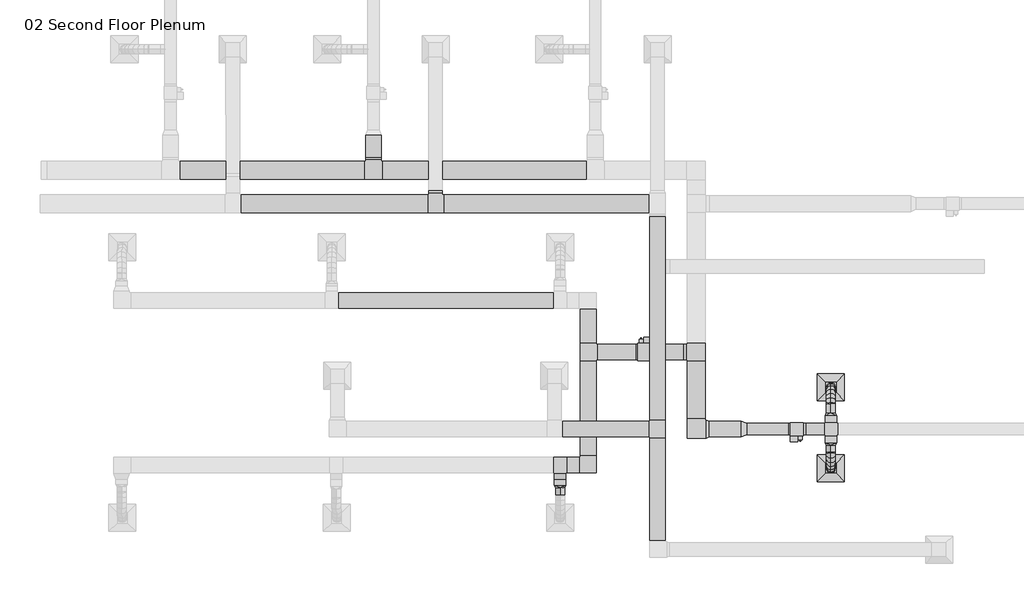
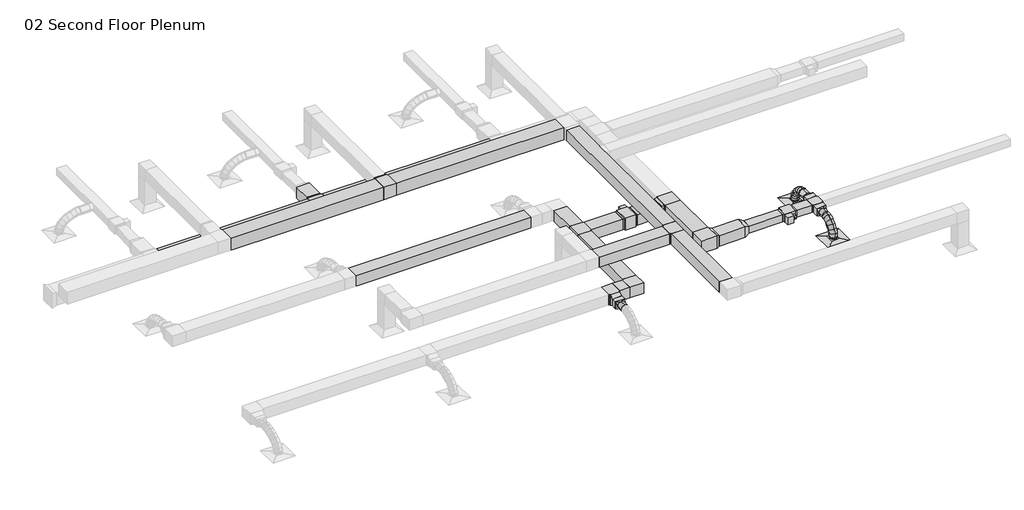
# One storey, part 8 of 12: 26 duct segments, 18 duct fittings, 2 air terminals, 2 proxies.
"""IFC4 building model written with IfcOpenShell, lengths in millimetres."""

from ifc_helpers import new_model, si_unit, point, frame, frame_2d, origin, place, context, project, spatial, polyline, circle_curve, ellipse_curve, trimmed, segment, composite_curve, outline, extrude, transform, mapped, element, save
from ifc_brep_helpers import plane_surface, cylinder_surface, advanced_brep
from components import supply_diffuser_rectangular_face_round_neck_d30_6390248a, bcn6785_vav_d30_vav1_8c327968, bcn6785_vav_d30_vav2_f6575c8f, rectangular_cross_standard_90e2e06b, rectangular_elbow_mitered_standard_f5573d14, rectangular_elbow_mitered_standard_452c98c7, rectangular_tee_standard_6c605370, rectangular_tee_standard_d9ff6fab, rectangular_tee_standard_47919d39, rectangular_tee_standard_b910b0bc, rectangular_transition_angle_45_degree_183635ce, rectangular_transition_angle_45_degree_4f949d70, rectangular_transition_angle_45_degree_97535d2c, rectangular_transition_angle_45_degree_6fcfed4c, rectangular_transition_angle_45_degree_21cd9d03, rectangular_transition_angle_45_degree_622b8b9e, rectangular_to_round_transition_angle_45_degree_e9430680, rectangular_to_round_transition_angle_45_degree_a46ebf92

model = new_model("IFC4")

# Units and contexts
model_context = context("Model", 3, world=origin())
ifc_project = project(units=[si_unit("LENGTHUNIT", "METRE", prefix="MILLI")], contexts=[model_context])

# Site, building, storey
site = spatial("IfcSite", under=ifc_project)
building = spatial("IfcBuilding", under=site)
storey = spatial("IfcBuildingStorey", under=building, Name="02 Second Floor Plenum", Elevation=3048.0)

# Air terminals
placement = place(None, origin())
supply_diffuser_rectangular_face_round_neck_d30_shape = supply_diffuser_rectangular_face_round_neck_d30_6390248a(model_context)
element("IfcAirTerminal", 1, ObjectType="Supply Diffuser - Rectangular Face Round Neck : D30_SupplyDiffuser_24x24 8 Neck", at=placement, inside=storey, context=model_context, shape_type="MappedRepresentation", body=[
    mapped(supply_diffuser_rectangular_face_round_neck_d30_shape, transform((14159.1207383, 2426.2921675, 3048.0), x_axis=(1.0, 0.0, 0.0), y_axis=(0.0, 1.0, 0.0), z_axis=(0.0, 0.0, 1.0))),
])
element("IfcAirTerminal", 2, ObjectType="Supply Diffuser - Rectangular Face Round Neck : D30_SupplyDiffuser_24x24 8 Neck", at=placement, inside=storey, context=model_context, shape_type="MappedRepresentation", body=[
    mapped(supply_diffuser_rectangular_face_round_neck_d30_shape, transform((14159.1207383, 597.4921675, 3048.0), x_axis=(1.0, 0.0, 0.0), y_axis=(0.0, 1.0, 0.0), z_axis=(0.0, 0.0, 1.0))),
])

# Proxies
bcn6785_vav_d30_vav1_shape = bcn6785_vav_d30_vav1_8c327968(model_context)
element("IfcBuildingElementProxy", 3, Name="BCN6785_VAV : D30_VAV1", ObjectType="BCN6785_VAV : D30_VAV1", at=placement, inside=storey, context=model_context, shape_type="MappedRepresentation", body=[
    mapped(bcn6785_vav_d30_vav1_shape, transform((13244.7207383, 1482.2580171, 3384.55), x_axis=(1.0, 0.0, 0.0), y_axis=(0.0, 1.0, 0.0), z_axis=(0.0, 0.0, 1.0))),
])
bcn6785_vav_d30_vav2_shape = bcn6785_vav_d30_vav2_f6575c8f(model_context)
element("IfcBuildingElementProxy", 4, Name="BCN6785_VAV : D30_VAV2", ObjectType="BCN6785_VAV : D30_VAV2", at=placement, inside=storey, context=model_context, shape_type="MappedRepresentation", body=[
    mapped(bcn6785_vav_d30_vav2_shape, transform((10103.5699331, 3217.7994471, 3333.75), x_axis=(-1.0, 0.0, 0.0), y_axis=(0.0, -1.0, 0.0), z_axis=(0.0, 0.0, 1.0))),
])

# Duct fittings
rectangular_cross_standard_shape = rectangular_cross_standard_90e2e06b(model_context)
element("IfcDuctFitting", 5, ObjectType="Rectangular Cross : Standard", at=placement, inside=storey, context=model_context, shape_type="MappedRepresentation", body=[
    mapped(rectangular_cross_standard_shape, transform((14160.0672275, 1482.2580171, 3505.2), x_axis=(1.0, 0.0, 0.0), y_axis=(0.0, 1.0, 0.0), z_axis=(0.0, 0.0, 1.0))),
])
rectangular_elbow_mitered_standard_shape = rectangular_elbow_mitered_standard_f5573d14(model_context)
element("IfcDuctFitting", 6, ObjectType="Rectangular Elbow - Mitered : Standard", at=placement, inside=storey, context=model_context, shape_type="MappedRepresentation", body=[
    mapped(rectangular_elbow_mitered_standard_shape, transform((11126.2817659, 1482.2580171, 3505.2), x_axis=(0.0, -1.0, 0.0), y_axis=(1.0, 0.0, 0.0), z_axis=(0.0, 0.0, 1.0))),
])
rectangular_elbow_mitered_standard_2_shape = rectangular_elbow_mitered_standard_452c98c7(model_context)
element("IfcDuctFitting", 7, ObjectType="Rectangular Elbow - Mitered : Standard", at=placement, inside=storey, context=model_context, shape_type="MappedRepresentation", body=[
    mapped(rectangular_elbow_mitered_standard_2_shape, transform((8690.7455608, 675.5206694, 3505.2), x_axis=(1.0, 0.0, 0.0), y_axis=(0.0, 1.0, 0.0), z_axis=(0.0, 0.0, 1.0))),
])
rectangular_tee_standard_shape = rectangular_tee_standard_6c605370(model_context)
element("IfcDuctFitting", 8, ObjectType="Rectangular Tee : Standard", at=placement, inside=storey, context=model_context, shape_type="MappedRepresentation", body=[
    mapped(rectangular_tee_standard_shape, transform((3851.251634, 7316.8809317, 3505.2), x_axis=(-1.0, 0.0, 0.0), y_axis=(0.0, -1.0, 0.0), z_axis=(0.0, 0.0, 1.0))),
])
element("IfcDuctFitting", 9, ObjectType="Rectangular Tee : Standard", at=placement, inside=storey, context=model_context, shape_type="MappedRepresentation", body=[
    mapped(rectangular_tee_standard_shape, transform((11126.2817659, 3217.7994471, 3505.2), x_axis=(0.0, -1.0, 0.0), y_axis=(1.0, 0.0, 0.0), z_axis=(0.0, 0.0, 1.0))),
])
rectangular_tee_standard_2_shape = rectangular_tee_standard_d9ff6fab(model_context)
element("IfcDuctFitting", 10, ObjectType="Rectangular Tee : Standard", at=placement, inside=storey, context=model_context, shape_type="MappedRepresentation", body=[
    mapped(rectangular_tee_standard_2_shape, transform((8690.7455608, 3217.7994471, 3505.2), x_axis=(0.0, 1.0, 0.0), y_axis=(-1.0, 0.0, 0.0), z_axis=(0.0, 0.0, 1.0))),
])
element("IfcDuctFitting", 11, ObjectType="Rectangular Tee : Standard", at=placement, inside=storey, context=model_context, shape_type="MappedRepresentation", body=[
    mapped(rectangular_tee_standard_2_shape, transform((10252.2832383, 1482.2580171, 4038.6), x_axis=(0.0, -1.0, 0.0), y_axis=(1.0, 0.0, 0.0), z_axis=(0.0, 0.0, 1.0))),
])
rectangular_tee_standard_3_shape = rectangular_tee_standard_47919d39(model_context)
element("IfcDuctFitting", 12, ObjectType="Rectangular Tee : Standard", at=placement, inside=storey, context=model_context, shape_type="MappedRepresentation", body=[
    mapped(rectangular_tee_standard_3_shape, transform((8055.87093, 675.5206694, 3505.2), x_axis=(-1.0, 0.0, 0.0), y_axis=(0.0, -1.0, 0.0), z_axis=(0.0, 0.0, 1.0))),
])
rectangular_tee_standard_4_shape = rectangular_tee_standard_b910b0bc(model_context)
element("IfcDuctFitting", 13, ObjectType="Rectangular Tee : Standard", at=placement, inside=storey, context=model_context, shape_type="MappedRepresentation", body=[
    mapped(rectangular_tee_standard_4_shape, transform((5253.2457383, 6562.5101985, 4038.6), x_axis=(-1.0, 0.0, 0.0), y_axis=(0.0, -1.0, 0.0), z_axis=(0.0, 0.0, 1.0))),
])
rectangular_transition_angle_45_degree_shape = rectangular_transition_angle_45_degree_183635ce(model_context)
element("IfcDuctFitting", 14, ObjectType="Rectangular Transition - Angle : 45 Degree", at=placement, inside=storey, context=model_context, shape_type="MappedRepresentation", body=[
    mapped(rectangular_transition_angle_45_degree_shape, transform((12142.2817659, 1482.2580171, 3505.2), x_axis=(1.0, 0.0, 0.0), y_axis=(0.0, 1.0, 0.0), z_axis=(0.0, 0.0, 1.0))),
])
rectangular_transition_angle_45_degree_2_shape = rectangular_transition_angle_45_degree_4f949d70(model_context)
element("IfcDuctFitting", 15, ObjectType="Rectangular Transition - Angle : 45 Degree", at=placement, inside=storey, context=model_context, shape_type="MappedRepresentation", body=[
    mapped(rectangular_transition_angle_45_degree_2_shape, transform((10897.6817659, 3217.7994471, 3505.2), x_axis=(-1.0, 0.0, 0.0), y_axis=(0.0, -1.0, 0.0), z_axis=(0.0, 0.0, 1.0))),
])
rectangular_transition_angle_45_degree_3_shape = rectangular_transition_angle_45_degree_97535d2c(model_context)
element("IfcDuctFitting", 16, ObjectType="Rectangular Transition - Angle : 45 Degree", at=placement, inside=storey, context=model_context, shape_type="MappedRepresentation", body=[
    mapped(rectangular_transition_angle_45_degree_3_shape, transform((3851.251634, 7606.8019562, 3505.2), x_axis=(0.0, -1.0, 0.0), y_axis=(1.0, 0.0, 0.0), z_axis=(0.0, 0.0, 1.0))),
])
rectangular_transition_angle_45_degree_4_shape = rectangular_transition_angle_45_degree_6fcfed4c(model_context)
element("IfcDuctFitting", 17, ObjectType="Rectangular Transition - Angle : 45 Degree", at=placement, inside=storey, context=model_context, shape_type="MappedRepresentation", body=[
    mapped(rectangular_transition_angle_45_degree_4_shape, transform((11354.8817659, 1482.2580171, 3505.2), x_axis=(1.0, 0.0, 0.0), y_axis=(0.0, 1.0, 0.0), z_axis=(0.0, 0.0, 1.0))),
])
rectangular_transition_angle_45_degree_5_shape = rectangular_transition_angle_45_degree_21cd9d03(model_context)
element("IfcDuctFitting", 18, ObjectType="Rectangular Transition - Angle : 45 Degree", at=placement, inside=storey, context=model_context, shape_type="MappedRepresentation", body=[
    mapped(rectangular_transition_angle_45_degree_5_shape, transform((8055.87093, 472.3206694, 3505.2), x_axis=(0.0, -1.0, 0.0), y_axis=(1.0, 0.0, 0.0), z_axis=(0.0, 0.0, 1.0))),
])
rectangular_transition_angle_45_degree_6_shape = rectangular_transition_angle_45_degree_622b8b9e(model_context)
element("IfcDuctFitting", 19, ObjectType="Rectangular Transition - Angle : 45 Degree", at=placement, inside=storey, context=model_context, shape_type="MappedRepresentation", body=[
    mapped(rectangular_transition_angle_45_degree_6_shape, transform((5253.2457383, 6791.1101985, 4038.6), x_axis=(0.0, 1.0, 0.0), y_axis=(-1.0, 0.0, 0.0), z_axis=(0.0, 0.0, 1.0))),
])
rectangular_to_round_transition_angle_45_degree_shape = rectangular_to_round_transition_angle_45_degree_e9430680(model_context)
element("IfcDuctFitting", 20, ObjectType="Rectangular to Round Transition - Angle : 45 Degree", at=placement, inside=storey, context=model_context, shape_type="MappedRepresentation", body=[
    mapped(rectangular_to_round_transition_angle_45_degree_shape, transform((14160.0672275, 1787.0580171, 3505.2), x_axis=(0.0, 1.0, 0.0), y_axis=(-1.0, 0.0, 0.0), z_axis=(0.0, 0.0, 1.0))),
])
element("IfcDuctFitting", 21, ObjectType="Rectangular to Round Transition - Angle : 45 Degree", at=placement, inside=storey, context=model_context, shape_type="MappedRepresentation", body=[
    mapped(rectangular_to_round_transition_angle_45_degree_shape, transform((14160.0672275, 1177.4580171, 3505.2), x_axis=(0.0, -1.0, 0.0), y_axis=(1.0, 0.0, 0.0), z_axis=(0.0, 0.0, 1.0))),
])
rectangular_to_round_transition_angle_45_degree_2_shape = rectangular_to_round_transition_angle_45_degree_a46ebf92(model_context)
element("IfcDuctFitting", 22, ObjectType="Rectangular to Round Transition - Angle : 45 Degree", at=placement, inside=storey, context=model_context, shape_type="MappedRepresentation", body=[
    mapped(rectangular_to_round_transition_angle_45_degree_2_shape, transform((8055.87093, 218.3206694, 3505.2), x_axis=(0.0, -1.0, 0.0), y_axis=(1.0, 0.0, 0.0), z_axis=(0.0, 0.0, 1.0))),
])

# Duct segments
element("IfcDuctSegment", 23, ObjectType="Flex - Round", at=placement, inside=storey, context=model_context, shape_type="AdvancedBrep", body=[
    advanced_brep(
    [(14058.4672275, 2051.5790416, 3505.2), (14160.0672275, 2051.5790416, 3403.6), (14261.6672275, 2051.5790416, 3505.2), (14160.0672275, 2051.5790416, 3606.8), (14058.4672275, 2070.229676, 3505.2), (14160.0672275, 2058.4829004, 3403.6), (14261.6672275, 2070.3262463, 3505.2), (14160.0672275, 2082.0730218, 3606.8), (14057.5209837, 2426.0688588, 3101.975), (14158.8974297, 2527.8919221, 3101.975), (14260.7204929, 2426.5154761, 3101.975), (14159.344047, 2324.6924129, 3101.975), (14058.3972058, 2142.9054666, 3488.0951454), (14160.020629, 2106.8476654, 3392.2169484), (14261.5970286, 2143.1859198, 3488.051867), (14159.9736054, 2179.2437209, 3583.930064), (14058.2220649, 2230.0684611, 3441.4922114), (14159.8903054, 2171.7062685, 3357.5393744), (14261.4216179, 2230.4832337, 3441.3771173), (14159.7533774, 2288.8454263, 3525.3299543), (14057.994297, 2307.5043796, 3372.4794057), (14159.7122367, 2232.2455616, 3303.5852591), (14261.1936689, 2307.9806967, 3372.3094615), (14159.4757291, 2383.2395147, 3441.2036081), (14057.7664519, 2369.6769813, 3288.1537085), (14159.5312221, 2281.6394389, 3236.5915508), (14260.965797, 2370.1606171, 3287.9738378), (14159.2010267, 2458.1981595, 3339.5359955), (14057.5911331, 2411.0460005, 3195.6208653), (14159.3951132, 2313.7563161, 3164.7535905), (14260.7905642, 2411.5093282, 3195.4864191), (14158.9865841, 2508.7990127, 3226.353694), (14057.5209837, 2426.0688588, 3118.0949275), (14159.344047, 2324.6924129, 3108.3175153), (14260.7204929, 2426.5154761, 3118.0467158), (14158.8974297, 2527.8919221, 3127.824128)],
    [
        (0, 1, circle_curve(frame((14160.0672275, 2051.5790416, 3505.2), z_axis=(0.0, -1.0, 0.0), x_axis=(-1.0, 0.0, 0.0)), 101.6)),
        (1, 2, circle_curve(frame((14160.0672275, 2051.5790416, 3505.2), z_axis=(0.0, -1.0, 0.0), x_axis=(-1.0, 0.0, 0.0)), 101.6)),
        (2, 3, circle_curve(frame((14160.0672275, 2051.5790416, 3505.2), z_axis=(0.0, -1.0, 0.0), x_axis=(-1.0, 0.0, 0.0)), 101.6)),
        (3, 0, circle_curve(frame((14160.0672275, 2051.5790416, 3505.2), z_axis=(0.0, -1.0, 0.0), x_axis=(-1.0, 0.0, 0.0)), 101.6)),
        (0, 4),
        (4, 5, ellipse_curve(frame((14160.0672275, 2070.2779611, 3505.2), z_axis=(0.00047207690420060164, -0.993328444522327, 0.11531859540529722), x_axis=(-0.004066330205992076, -0.11531956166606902, -0.9933201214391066)), 102.2823826, 101.6)),
        (5, 1),
        (5, 6, ellipse_curve(frame((14160.0672275, 2070.2779611, 3505.2), z_axis=(0.00047207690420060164, -0.993328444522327, 0.11531859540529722), x_axis=(-0.004066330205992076, -0.11531956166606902, -0.9933201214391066)), 102.2823826, 101.6)),
        (6, 2),
        (6, 7, ellipse_curve(frame((14160.0672275, 2070.2779611, 3505.2), z_axis=(0.00047207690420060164, -0.993328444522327, 0.11531859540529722), x_axis=(-0.004066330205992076, -0.11531956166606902, -0.9933201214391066)), 102.2823826, 101.6)),
        (7, 3),
        (7, 4, ellipse_curve(frame((14160.0672275, 2070.2779611, 3505.2), z_axis=(0.00047207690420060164, -0.993328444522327, 0.11531859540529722), x_axis=(-0.004066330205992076, -0.11531956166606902, -0.9933201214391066)), 102.2823826, 101.6)),
        (8, 9, circle_curve(frame((14159.1207383, 2426.2921675, 3101.975), z_axis=(0.0, 0.0, -1.0), x_axis=(-0.9999975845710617, -0.002197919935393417, 0.0)), 101.6)),
        (9, 10, circle_curve(frame((14159.1207383, 2426.2921675, 3101.975), z_axis=(0.0, 0.0, -1.0), x_axis=(-0.9999975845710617, -0.002197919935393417, 0.0)), 101.6)),
        (10, 11, circle_curve(frame((14159.1207383, 2426.2921675, 3101.975), z_axis=(0.0, 0.0, -1.0), x_axis=(-0.9999975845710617, -0.002197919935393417, 0.0)), 101.6)),
        (11, 8, circle_curve(frame((14159.1207383, 2426.2921675, 3101.975), z_axis=(0.0, 0.0, -1.0), x_axis=(-0.9999975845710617, -0.002197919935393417, 0.0)), 101.6)),
        (4, 12),
        (12, 13, ellipse_curve(frame((14159.9971172, 2143.0456932, 3488.0735062), z_axis=(0.0013664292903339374, -0.9355177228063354, 0.3532771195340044), x_axis=(-0.0032191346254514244, -0.3532797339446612, -0.9355121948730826)), 102.4635524, 101.6)),
        (13, 5),
        (13, 14, ellipse_curve(frame((14159.9971172, 2143.0456932, 3488.0735062), z_axis=(0.0013664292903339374, -0.9355177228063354, 0.3532771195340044), x_axis=(-0.0032191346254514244, -0.3532797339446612, -0.9355121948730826)), 102.4635524, 101.6)),
        (14, 6),
        (14, 15, ellipse_curve(frame((14159.9971172, 2143.0456932, 3488.0735062), z_axis=(0.0013664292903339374, -0.9355177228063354, 0.3532771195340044), x_axis=(-0.0032191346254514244, -0.3532797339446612, -0.9355121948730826)), 102.4635524, 101.6)),
        (15, 7),
        (15, 12, ellipse_curve(frame((14159.9971172, 2143.0456932, 3488.0735062), z_axis=(0.0013664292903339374, -0.9355177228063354, 0.3532771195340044), x_axis=(-0.0032191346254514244, -0.3532797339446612, -0.9355121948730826)), 102.4635524, 101.6)),
        (12, 16),
        (16, 17, ellipse_curve(frame((14159.8218414, 2230.2758474, 3441.4346644), z_axis=(0.0019979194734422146, -0.8199503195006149, 0.5724312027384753), x_axis=(-0.0017930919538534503, -0.5724343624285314, -0.8199485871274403)), 102.3172558, 101.6)),
        (17, 13),
        (17, 18, ellipse_curve(frame((14159.8218414, 2230.2758474, 3441.4346644), z_axis=(0.0019979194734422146, -0.8199503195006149, 0.5724312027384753), x_axis=(-0.0017930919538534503, -0.5724343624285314, -0.8199485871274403)), 102.3172558, 101.6)),
        (18, 14),
        (18, 19, ellipse_curve(frame((14159.8218414, 2230.2758474, 3441.4346644), z_axis=(0.0019979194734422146, -0.8199503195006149, 0.5724312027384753), x_axis=(-0.0017930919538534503, -0.5724343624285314, -0.8199485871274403)), 102.3172558, 101.6)),
        (19, 15),
        (19, 16, ellipse_curve(frame((14159.8218414, 2230.2758474, 3441.4346644), z_axis=(0.0019979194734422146, -0.8199503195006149, 0.5724312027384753), x_axis=(-0.0017930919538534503, -0.5724343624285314, -0.8199485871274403)), 102.3172558, 101.6)),
        (16, 20),
        (20, 21, ellipse_curve(frame((14159.5939829, 2307.7425381, 3372.3944336), z_axis=(0.0021971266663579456, -0.6736097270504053, 0.7390839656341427), x_axis=(0.00010183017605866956, -0.7390855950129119, -0.6736115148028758)), 102.1494497, 101.6)),
        (21, 17),
        (21, 22, ellipse_curve(frame((14159.5939829, 2307.7425381, 3372.3944336), z_axis=(0.0021971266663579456, -0.6736097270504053, 0.7390839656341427), x_axis=(0.00010183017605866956, -0.7390855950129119, -0.6736115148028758)), 102.1494497, 101.6)),
        (22, 18),
        (22, 23, ellipse_curve(frame((14159.5939829, 2307.7425381, 3372.3944336), z_axis=(0.0021971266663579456, -0.6736097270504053, 0.7390839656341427), x_axis=(0.00010183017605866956, -0.7390855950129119, -0.6736115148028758)), 102.1494497, 101.6)),
        (23, 19),
        (23, 20, ellipse_curve(frame((14159.5939829, 2307.7425381, 3372.3944336), z_axis=(0.0021971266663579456, -0.6736097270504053, 0.7390839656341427), x_axis=(0.00010183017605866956, -0.7390855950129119, -0.6736115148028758)), 102.1494497, 101.6)),
        (20, 24),
        (24, 25, ellipse_curve(frame((14159.3661244, 2369.9187992, 3288.0637732), z_axis=(0.001963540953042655, -0.5036915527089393, 0.8638813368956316), x_axis=(0.002075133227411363, -0.8638790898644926, -0.5036949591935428)), 102.1893459, 101.6)),
        (25, 21),
        (25, 26, ellipse_curve(frame((14159.3661244, 2369.9187992, 3288.0637732), z_axis=(0.001963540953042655, -0.5036915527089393, 0.8638813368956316), x_axis=(0.002075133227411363, -0.8638790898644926, -0.5036949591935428)), 102.1893459, 101.6)),
        (26, 22),
        (26, 27, ellipse_curve(frame((14159.3661244, 2369.9187992, 3288.0637732), z_axis=(0.001963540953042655, -0.5036915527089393, 0.8638813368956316), x_axis=(0.002075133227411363, -0.8638790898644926, -0.5036949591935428)), 102.1893459, 101.6)),
        (27, 23),
        (27, 24, ellipse_curve(frame((14159.3661244, 2369.9187992, 3288.0637732), z_axis=(0.001963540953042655, -0.5036915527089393, 0.8638813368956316), x_axis=(0.002075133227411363, -0.8638790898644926, -0.5036949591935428)), 102.1893459, 101.6)),
        (24, 28),
        (28, 29, ellipse_curve(frame((14159.1908486, 2411.2776644, 3195.5536422), z_axis=(0.0013176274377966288, -0.30116270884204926, 0.9535718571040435), x_axis=(0.003681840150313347, -0.9535647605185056, -0.3011655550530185)), 102.2697349, 101.6)),
        (29, 25),
        (29, 30, ellipse_curve(frame((14159.1908486, 2411.2776644, 3195.5536422), z_axis=(0.0013176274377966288, -0.30116270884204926, 0.9535718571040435), x_axis=(0.003681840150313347, -0.9535647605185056, -0.3011655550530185)), 102.2697349, 101.6)),
        (30, 26),
        (30, 31, ellipse_curve(frame((14159.1908486, 2411.2776644, 3195.5536422), z_axis=(0.0013176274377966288, -0.30116270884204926, 0.9535718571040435), x_axis=(0.003681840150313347, -0.9535647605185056, -0.3011655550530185)), 102.2697349, 101.6)),
        (31, 27),
        (31, 28, ellipse_curve(frame((14159.1908486, 2411.2776644, 3195.5536422), z_axis=(0.0013176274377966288, -0.30116270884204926, 0.9535718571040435), x_axis=(0.003681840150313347, -0.9535647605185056, -0.3011655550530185)), 102.2697349, 101.6)),
        (28, 32),
        (32, 33, ellipse_curve(frame((14159.1207383, 2426.2921675, 3118.0708216), z_axis=(0.00044620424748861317, -0.0955570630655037, 0.9954238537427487), x_axis=(0.004648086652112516, -0.9954130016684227, -0.09555810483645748)), 102.0670739, 101.6)),
        (33, 29),
        (33, 34, ellipse_curve(frame((14159.1207383, 2426.2921675, 3118.0708216), z_axis=(0.00044620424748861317, -0.0955570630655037, 0.9954238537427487), x_axis=(0.004648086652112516, -0.9954130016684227, -0.09555810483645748)), 102.0670739, 101.6)),
        (34, 30),
        (34, 35, ellipse_curve(frame((14159.1207383, 2426.2921675, 3118.0708216), z_axis=(0.00044620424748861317, -0.0955570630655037, 0.9954238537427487), x_axis=(0.004648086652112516, -0.9954130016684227, -0.09555810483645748)), 102.0670739, 101.6)),
        (35, 31),
        (35, 32, ellipse_curve(frame((14159.1207383, 2426.2921675, 3118.0708216), z_axis=(0.00044620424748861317, -0.0955570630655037, 0.9954238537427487), x_axis=(0.004648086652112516, -0.9954130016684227, -0.09555810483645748)), 102.0670739, 101.6)),
        (32, 8),
        (11, 33),
        (10, 34),
        (9, 35),
    ],
    [
        plane_surface(frame((14058.4672275, 2051.5790416, 3505.2), z_axis=(0.0, -1.0, 0.0), x_axis=(0.0, 0.0, 1.0))),
        cylinder_surface(frame((14160.0672275, 2051.5790416, 3505.2), z_axis=(0.0, -1.0, 0.0), x_axis=(-1.0, 0.0, 0.0)), 101.6),
        plane_surface(frame((14159.1207383, 2324.6921675, 3101.975), z_axis=(0.0, 0.0, -1.0), x_axis=(-1.0, 0.0, 0.0))),
        cylinder_surface(frame((14160.0672275, 2070.2779611, 3505.2), z_axis=(0.0009378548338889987, -0.9734027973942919, 0.22909848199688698), x_axis=(-0.9999995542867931, -0.0009378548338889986, 0.00010887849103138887)), 101.6),
        cylinder_surface(frame((14159.9971172, 2143.0456932, 3488.0735062), z_axis=(0.0017719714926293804, -0.8818637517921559, 0.47150098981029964), x_axis=(-0.999998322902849, -0.0017809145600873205, 0.0004272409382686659)), 101.6),
        cylinder_surface(frame((14159.8218414, 2230.2758474, 3441.4346644), z_axis=(0.0021958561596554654, -0.746540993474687, 0.6653357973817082), x_axis=(-0.999997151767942, -0.0022615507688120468, 0.0007627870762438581)), 101.6),
        cylinder_surface(frame((14159.5939829, 2307.7425381, 3372.3944336), z_axis=(0.0021747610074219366, -0.5934319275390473, 0.8048812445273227), x_axis=(-0.9999966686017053, -0.002409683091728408, 0.0009253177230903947)), 101.6),
        cylinder_surface(frame((14159.3661244, 2369.9187992, 3288.0637732), z_axis=(0.0017296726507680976, -0.408141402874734, 0.9129170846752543), x_axis=(-0.9999968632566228, -0.0023597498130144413, 0.0008396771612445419)), 101.6),
        cylinder_surface(frame((14159.1908486, 2411.2776644, 3195.5536422), z_axis=(0.0008883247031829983, -0.1902395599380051, 0.9817372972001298), x_axis=(-0.9999973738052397, -0.0022430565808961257, 0.00047019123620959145)), 101.6),
        cylinder_surface(frame((14159.1207383, 2426.2921675, 3118.0708216), z_axis=(0.0, 0.0, 1.0000000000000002), x_axis=(-0.9999975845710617, -0.002197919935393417, 0.0)), 101.6),
    ],
    [
        (0, [[1, 2, 3, 4]]),
        (1, [[-1, 5, 6, 7]]),
        (1, [[-2, -7, 8, 9]]),
        (1, [[-3, -9, 10, 11]]),
        (1, [[-4, -11, 12, -5]]),
        (2, [[13, 14, 15, 16]]),
        (3, [[-6, 17, 18, 19]]),
        (3, [[-8, -19, 20, 21]]),
        (3, [[-10, -21, 22, 23]]),
        (3, [[-12, -23, 24, -17]]),
        (4, [[-18, 25, 26, 27]]),
        (4, [[-20, -27, 28, 29]]),
        (4, [[-22, -29, 30, 31]]),
        (4, [[-24, -31, 32, -25]]),
        (5, [[-26, 33, 34, 35]]),
        (5, [[-28, -35, 36, 37]]),
        (5, [[-30, -37, 38, 39]]),
        (5, [[-32, -39, 40, -33]]),
        (6, [[-34, 41, 42, 43]]),
        (6, [[-36, -43, 44, 45]]),
        (6, [[-38, -45, 46, 47]]),
        (6, [[-40, -47, 48, -41]]),
        (7, [[-42, 49, 50, 51]]),
        (7, [[-44, -51, 52, 53]]),
        (7, [[-46, -53, 54, 55]]),
        (7, [[-48, -55, 56, -49]]),
        (8, [[-50, 57, 58, 59]]),
        (8, [[-52, -59, 60, 61]]),
        (8, [[-54, -61, 62, 63]]),
        (8, [[-56, -63, 64, -57]]),
        (9, [[-58, 65, -16, 66]]),
        (9, [[-60, -66, -15, 67]]),
        (9, [[-62, -67, -14, 68]]),
        (9, [[-64, -68, -13, -65]]),
    ],
),
])
element("IfcDuctSegment", 24, ObjectType="Flex - Round", at=placement, inside=storey, context=model_context, shape_type="AdvancedBrep", body=[
    advanced_brep(
    [(14261.6672275, 963.7369926, 3505.2), (14160.0672275, 963.7369926, 3403.6), (14058.4672275, 963.7369926, 3505.2), (14160.0672275, 963.7369926, 3606.8), (14261.6672275, 944.5887257, 3505.2), (14160.0672275, 956.7967884, 3403.6), (14058.4672275, 944.6875081, 3505.2), (14160.0672275, 932.4794454, 3606.8), (14260.7204876, 597.2664263, 3101.975), (14158.8949972, 495.8924183, 3101.975), (14057.5209891, 597.7179086, 3101.975), (14159.3464795, 699.0919167, 3101.975), (14261.5970251, 873.4180379, 3487.9182251), (14160.0216972, 910.6384558, 3392.3917634), (14058.3972092, 873.7034407, 3487.9635406), (14159.9725372, 836.4830228, 3583.4900024), (14261.4216108, 787.8742075, 3440.9505223), (14159.8927099, 847.7355504, 3357.855024), (14058.222072, 788.2947156, 3441.0700171), (14159.750973, 728.4333727, 3524.1655153), (14261.1936598, 712.2828673, 3371.590359), (14159.7155964, 789.0025859, 3303.9635598), (14057.994306, 712.7647576, 3371.7661761), (14159.4723694, 636.045039, 3439.3929754), (14260.9657885, 651.8500993, 3287.1223221), (14159.5345832, 740.9968376, 3236.8650063), (14057.7664604, 652.3387908, 3287.3076455), (14159.1976657, 563.1920525, 3337.5649613), (14260.7905576, 611.7779382, 3194.8215232), (14159.3979586, 709.7532516, 3164.8996349), (14057.5911397, 612.2460865, 3194.9595279), (14158.9837386, 514.2707732, 3224.8814162), (14260.7204876, 597.2664263, 3117.6370812), (14159.3464795, 699.0919167, 3108.1936769), (14057.5209891, 597.7179086, 3117.6864419), (14158.8949972, 495.8924183, 3127.1298462)],
    [
        (0, 1, circle_curve(frame((14160.0672275, 963.7369926, 3505.2), z_axis=(0.0, 1.0, 0.0), x_axis=(1.0, 0.0, 0.0)), 101.6)),
        (1, 2, circle_curve(frame((14160.0672275, 963.7369926, 3505.2), z_axis=(0.0, 1.0, 0.0), x_axis=(1.0, 0.0, 0.0)), 101.6)),
        (2, 3, circle_curve(frame((14160.0672275, 963.7369926, 3505.2), z_axis=(0.0, 1.0, 0.0), x_axis=(1.0, 0.0, 0.0)), 101.6)),
        (3, 0, circle_curve(frame((14160.0672275, 963.7369926, 3505.2), z_axis=(0.0, 1.0, 0.0), x_axis=(1.0, 0.0, 0.0)), 101.6)),
        (0, 4),
        (4, 5, ellipse_curve(frame((14160.0672275, 944.6381169, 3505.2), z_axis=(0.0004826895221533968, 0.9929152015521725, 0.11882411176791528), x_axis=(-0.0040334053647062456, 0.11882509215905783, -0.9929070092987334)), 102.3249517, 101.6)),
        (5, 1),
        (5, 6, ellipse_curve(frame((14160.0672275, 944.6381169, 3505.2), z_axis=(0.0004826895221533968, 0.9929152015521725, 0.11882411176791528), x_axis=(-0.0040334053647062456, 0.11882509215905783, -0.9929070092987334)), 102.3249517, 101.6)),
        (6, 2),
        (6, 7, ellipse_curve(frame((14160.0672275, 944.6381169, 3505.2), z_axis=(0.0004826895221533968, 0.9929152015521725, 0.11882411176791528), x_axis=(-0.0040334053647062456, 0.11882509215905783, -0.9929070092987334)), 102.3249517, 101.6)),
        (7, 3),
        (7, 4, ellipse_curve(frame((14160.0672275, 944.6381169, 3505.2), z_axis=(0.0004826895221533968, 0.9929152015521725, 0.11882411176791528), x_axis=(-0.0040334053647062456, 0.11882509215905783, -0.9929070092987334)), 102.3249517, 101.6)),
        (8, 9, circle_curve(frame((14159.1207383, 597.4921675, 3101.975), z_axis=(0.0, 0.0, -1.0), x_axis=(0.9999975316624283, -0.0022218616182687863, 0.0)), 101.6)),
        (9, 10, circle_curve(frame((14159.1207383, 597.4921675, 3101.975), z_axis=(0.0, 0.0, -1.0), x_axis=(0.9999975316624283, -0.0022218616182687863, 0.0)), 101.6)),
        (10, 11, circle_curve(frame((14159.1207383, 597.4921675, 3101.975), z_axis=(0.0, 0.0, -1.0), x_axis=(0.9999975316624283, -0.0022218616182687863, 0.0)), 101.6)),
        (11, 8, circle_curve(frame((14159.1207383, 597.4921675, 3101.975), z_axis=(0.0, 0.0, -1.0), x_axis=(0.9999975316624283, -0.0022218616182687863, 0.0)), 101.6)),
        (4, 12),
        (12, 13, ellipse_curve(frame((14159.9971172, 873.5607393, 3487.9408829), z_axis=(0.0013900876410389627, 0.9322679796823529, 0.36176578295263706), x_axis=(-0.0031881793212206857, 0.36176842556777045, -0.9322625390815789)), 102.4909463, 101.6)),
        (13, 5),
        (13, 14, ellipse_curve(frame((14159.9971172, 873.5607393, 3487.9408829), z_axis=(0.0013900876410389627, 0.9322679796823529, 0.36176578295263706), x_axis=(-0.0031881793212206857, 0.36176842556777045, -0.9322625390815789)), 102.4909463, 101.6)),
        (14, 6),
        (14, 15, ellipse_curve(frame((14159.9971172, 873.5607393, 3487.9408829), z_axis=(0.0013900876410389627, 0.9322679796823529, 0.36176578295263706), x_axis=(-0.0031881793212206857, 0.36176842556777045, -0.9322625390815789)), 102.4909463, 101.6)),
        (15, 7),
        (15, 12, ellipse_curve(frame((14159.9971172, 873.5607393, 3487.9408829), z_axis=(0.0013900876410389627, 0.9322679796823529, 0.36176578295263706), x_axis=(-0.0031881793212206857, 0.36176842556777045, -0.9322625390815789)), 102.4909463, 101.6)),
        (12, 16),
        (16, 17, ellipse_curve(frame((14159.8218414, 788.0844616, 3441.0102697), z_axis=(0.0020242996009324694, 0.8125531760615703, 0.5828835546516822), x_axis=(-0.0017704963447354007, 0.5828867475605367, -0.8125514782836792)), 102.3379364, 101.6)),
        (17, 13),
        (17, 18, ellipse_curve(frame((14159.8218414, 788.0844616, 3441.0102697), z_axis=(0.0020242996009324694, 0.8125531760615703, 0.5828835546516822), x_axis=(-0.0017704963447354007, 0.5828867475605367, -0.8125514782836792)), 102.3379364, 101.6)),
        (18, 14),
        (18, 19, ellipse_curve(frame((14159.8218414, 788.0844616, 3441.0102697), z_axis=(0.0020242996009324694, 0.8125531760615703, 0.5828835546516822), x_axis=(-0.0017704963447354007, 0.5828867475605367, -0.8125514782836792)), 102.3379364, 101.6)),
        (19, 15),
        (19, 16, ellipse_curve(frame((14159.8218414, 788.0844616, 3441.0102697), z_axis=(0.0020242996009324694, 0.8125531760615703, 0.5828835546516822), x_axis=(-0.0017704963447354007, 0.5828867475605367, -0.8125514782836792)), 102.3379364, 101.6)),
        (16, 20),
        (20, 21, ellipse_curve(frame((14159.5939829, 712.5238125, 3371.6782676), z_axis=(0.002219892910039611, 0.6629019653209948, 0.7487029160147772), x_axis=(0.00013493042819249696, 0.7487045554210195, -0.6629038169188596)), 102.1484183, 101.6)),
        (21, 17),
        (21, 22, ellipse_curve(frame((14159.5939829, 712.5238125, 3371.6782676), z_axis=(0.002219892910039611, 0.6629019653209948, 0.7487029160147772), x_axis=(0.00013493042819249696, 0.7487045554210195, -0.6629038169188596)), 102.1484183, 101.6)),
        (22, 18),
        (22, 23, ellipse_curve(frame((14159.5939829, 712.5238125, 3371.6782676), z_axis=(0.002219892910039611, 0.6629019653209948, 0.7487029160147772), x_axis=(0.00013493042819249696, 0.7487045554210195, -0.6629038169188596)), 102.1484183, 101.6)),
        (23, 19),
        (23, 20, ellipse_curve(frame((14159.5939829, 712.5238125, 3371.6782676), z_axis=(0.002219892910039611, 0.6629019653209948, 0.7487029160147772), x_axis=(0.00013493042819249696, 0.7487045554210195, -0.6629038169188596)), 102.1484183, 101.6)),
        (20, 24),
        (24, 25, ellipse_curve(frame((14159.3661244, 652.0944451, 3287.2149838), z_axis=(0.001978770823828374, 0.492800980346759, 0.8701398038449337), x_axis=(0.0021445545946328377, 0.8701374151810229, -0.4928045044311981)), 102.1703677, 101.6)),
        (25, 21),
        (25, 26, ellipse_curve(frame((14159.3661244, 652.0944451, 3287.2149838), z_axis=(0.001978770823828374, 0.492800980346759, 0.8701398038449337), x_axis=(0.0021445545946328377, 0.8701374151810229, -0.4928045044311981)), 102.1703677, 101.6)),
        (26, 22),
        (26, 27, ellipse_curve(frame((14159.3661244, 652.0944451, 3287.2149838), z_axis=(0.001978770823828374, 0.492800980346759, 0.8701398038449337), x_axis=(0.0021445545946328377, 0.8701374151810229, -0.4928045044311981)), 102.1703677, 101.6)),
        (27, 23),
        (27, 24, ellipse_curve(frame((14159.3661244, 652.0944451, 3287.2149838), z_axis=(0.001978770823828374, 0.492800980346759, 0.8701398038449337), x_axis=(0.0021445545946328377, 0.8701374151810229, -0.4928045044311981)), 102.1703677, 101.6)),
        (24, 28),
        (28, 29, ellipse_curve(frame((14159.1908486, 612.0120124, 3194.8905256), z_axis=(0.0013250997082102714, 0.2933383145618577, 0.9560077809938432), x_axis=(0.00380337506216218, 0.9560002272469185, -0.2933412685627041)), 102.2391641, 101.6)),
        (29, 25),
        (29, 30, ellipse_curve(frame((14159.1908486, 612.0120124, 3194.8905256), z_axis=(0.0013250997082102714, 0.2933383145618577, 0.9560077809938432), x_axis=(0.00380337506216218, 0.9560002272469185, -0.2933412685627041)), 102.2391641, 101.6)),
        (30, 26),
        (30, 31, ellipse_curve(frame((14159.1908486, 612.0120124, 3194.8905256), z_axis=(0.0013250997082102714, 0.2933383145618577, 0.9560077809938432), x_axis=(0.00380337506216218, 0.9560002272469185, -0.2933412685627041)), 102.2391641, 101.6)),
        (31, 27),
        (31, 28, ellipse_curve(frame((14159.1908486, 612.0120124, 3194.8905256), z_axis=(0.0013250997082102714, 0.2933383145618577, 0.9560077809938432), x_axis=(0.00380337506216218, 0.9560002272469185, -0.2933412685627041)), 102.2391641, 101.6)),
        (28, 32),
        (32, 33, ellipse_curve(frame((14159.1207383, 597.4921675, 3117.6617615), z_axis=(0.000448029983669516, 0.09278701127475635, 0.9956858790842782), x_axis=(0.004807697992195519, 0.9956742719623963, -0.09278809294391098)), 102.0402138, 101.6)),
        (33, 29),
        (33, 34, ellipse_curve(frame((14159.1207383, 597.4921675, 3117.6617615), z_axis=(0.000448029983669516, 0.09278701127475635, 0.9956858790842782), x_axis=(0.004807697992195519, 0.9956742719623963, -0.09278809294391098)), 102.0402138, 101.6)),
        (34, 30),
        (34, 35, ellipse_curve(frame((14159.1207383, 597.4921675, 3117.6617615), z_axis=(0.000448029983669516, 0.09278701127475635, 0.9956858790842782), x_axis=(0.004807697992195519, 0.9956742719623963, -0.09278809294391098)), 102.0402138, 101.6)),
        (35, 31),
        (35, 32, ellipse_curve(frame((14159.1207383, 597.4921675, 3117.6617615), z_axis=(0.000448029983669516, 0.09278701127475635, 0.9956858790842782), x_axis=(0.004807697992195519, 0.9956742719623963, -0.09278809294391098)), 102.0402138, 101.6)),
        (32, 8),
        (11, 33),
        (10, 34),
        (9, 35),
    ],
    [
        plane_surface(frame((14058.4672275, 963.7369926, 3505.2), z_axis=(0.0, 1.0, 0.0), x_axis=(0.0, 0.0, -1.0))),
        cylinder_surface(frame((14160.0672275, 963.7369926, 3505.2), z_axis=(0.0, 1.0, 0.0), x_axis=(1.0, 0.0, 0.0)), 101.6),
        plane_surface(frame((14159.1207383, 495.8921675, 3101.975), z_axis=(0.0, 0.0, -1.0), x_axis=(-1.0, 0.0, 0.0))),
        cylinder_surface(frame((14160.0672275, 944.6381169, 3505.2), z_axis=(0.0009585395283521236, 0.9717611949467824, 0.23596453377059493), x_axis=(0.9999995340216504, -0.0009585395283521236, -0.00011471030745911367)), 101.6),
        cylinder_surface(frame((14159.9971172, 873.5607393, 3487.9408829), z_axis=(0.0017974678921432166, 0.8765664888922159, 0.48127742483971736), x_axis=(0.9999982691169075, -0.0018068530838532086, -0.00044389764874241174)), 101.6),
        cylinder_surface(frame((14159.8218414, 788.0844616, 3441.0102697), z_axis=(0.0022219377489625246, 0.7368215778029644, 0.6760835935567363), x_axis=(0.9999970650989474, -0.002290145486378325, -0.0007905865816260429)), 101.6),
        cylinder_surface(frame((14159.5939829, 712.5238125, 3371.6782676), z_axis=(0.0021940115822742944, 0.5818643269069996, 0.8132829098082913), x_axis=(0.9999965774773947, -0.002435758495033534, -0.0009550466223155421)), 101.6),
        cylinder_surface(frame((14159.3661244, 652.0944451, 3287.2149838), z_axis=(0.0017414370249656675, 0.39823549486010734, 0.9172815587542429), x_axis=(0.9999967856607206, -0.002383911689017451, -0.0008635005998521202)), 101.6),
        cylinder_surface(frame((14159.1908486, 612.0120124, 3194.8905256), z_axis=(0.000892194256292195, 0.18477343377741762, 0.9827807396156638), x_axis=(0.9999973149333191, -0.002266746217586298, -0.0004816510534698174)), 101.6),
        cylinder_surface(frame((14159.1207383, 597.4921675, 3117.6617615), z_axis=(0.0, 0.0, 1.0), x_axis=(0.9999975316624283, -0.0022218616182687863, 0.0)), 101.6),
    ],
    [
        (0, [[1, 2, 3, 4]]),
        (1, [[-1, 5, 6, 7]]),
        (1, [[-2, -7, 8, 9]]),
        (1, [[-3, -9, 10, 11]]),
        (1, [[-4, -11, 12, -5]]),
        (2, [[13, 14, 15, 16]]),
        (3, [[-6, 17, 18, 19]]),
        (3, [[-8, -19, 20, 21]]),
        (3, [[-10, -21, 22, 23]]),
        (3, [[-12, -23, 24, -17]]),
        (4, [[-18, 25, 26, 27]]),
        (4, [[-20, -27, 28, 29]]),
        (4, [[-22, -29, 30, 31]]),
        (4, [[-24, -31, 32, -25]]),
        (5, [[-26, 33, 34, 35]]),
        (5, [[-28, -35, 36, 37]]),
        (5, [[-30, -37, 38, 39]]),
        (5, [[-32, -39, 40, -33]]),
        (6, [[-34, 41, 42, 43]]),
        (6, [[-36, -43, 44, 45]]),
        (6, [[-38, -45, 46, 47]]),
        (6, [[-40, -47, 48, -41]]),
        (7, [[-42, 49, 50, 51]]),
        (7, [[-44, -51, 52, 53]]),
        (7, [[-46, -53, 54, 55]]),
        (7, [[-48, -55, 56, -49]]),
        (8, [[-50, 57, 58, 59]]),
        (8, [[-52, -59, 60, 61]]),
        (8, [[-54, -61, 62, 63]]),
        (8, [[-56, -63, 64, -57]]),
        (9, [[-58, 65, -16, 66]]),
        (9, [[-60, -66, -15, 67]]),
        (9, [[-62, -67, -14, 68]]),
        (9, [[-64, -68, -13, -65]]),
    ],
),
])
element("IfcDuctSegment", 25, ObjectType="Mitered Elbows / Tees", at=placement, inside=storey, context=model_context, shape_type="SweptSolid", body=[
    extrude(outline(polyline([(3673.451634, 8101.2001185), (4029.051634, 8101.2001185), (4029.051634, 7606.8019562), (3673.451634, 7606.8019562), (3673.451634, 8101.2001185)])), frame((0.0, 0.0, 3352.8), z_axis=(0.0, 0.0, 1.0), x_axis=(1.0, 0.0, 0.0)), (0.0, 0.0, 1.0), 304.8),
])
element("IfcDuctSegment", 26, ObjectType="Mitered Elbows / Tees", at=placement, inside=storey, context=model_context, shape_type="SweptSolid", body=[
    extrude(outline(polyline([(-517.548366, 7113.6809317), (-517.548366, 7520.0809317), (3648.051634, 7520.0809317), (3648.051634, 7113.6809317), (-517.548366, 7113.6809317)])), frame((0.0, 0.0, 3327.4), z_axis=(0.0, 0.0, 1.0), x_axis=(1.0, 0.0, 0.0)), (0.0, 0.0, 1.0), 355.6),
])
element("IfcDuctSegment", 27, ObjectType="Mitered Elbows / Tees", at=placement, inside=storey, context=model_context, shape_type="SweptSolid", body=[
    extrude(outline(polyline([(4054.451634, 7113.6809317), (4054.451634, 7520.0809317), (8647.089134, 7520.0809317), (8647.089134, 7113.6809317), (4054.451634, 7113.6809317)])), frame((0.0, 0.0, 3327.4), z_axis=(0.0, 0.0, 1.0), x_axis=(1.0, 0.0, 0.0)), (0.0, 0.0, 1.0), 355.6),
])
element("IfcDuctSegment", 28, ObjectType="Mitered Elbows / Tees", at=placement, inside=storey, context=model_context, shape_type="SweptSolid", body=[
    extrude(outline(polyline([(10923.0817659, 3014.5994471), (11329.4817659, 3014.5994471), (11329.4817659, 1710.8580171), (10923.0817659, 1710.8580171), (10923.0817659, 3014.5994471)])), frame((0.0, 0.0, 3327.4), z_axis=(0.0, 0.0, 1.0), x_axis=(1.0, 0.0, 0.0)), (0.0, 0.0, 1.0), 355.6),
])
element("IfcDuctSegment", 29, ObjectType="Mitered Elbows / Tees", at=placement, inside=storey, context=model_context, shape_type="SweptSolid", body=[
    extrude(outline(polyline([(11416.2027904, 1304.4580171), (11416.2027904, 1660.0580171), (12142.2817659, 1660.0580171), (12142.2817659, 1304.4580171), (11416.2027904, 1304.4580171)])), frame((0.0, 0.0, 3352.8), z_axis=(0.0, 0.0, 1.0), x_axis=(1.0, 0.0, 0.0)), (0.0, 0.0, 1.0), 304.8),
])
element("IfcDuctSegment", 30, ObjectType="Mitered Elbows / Tees", at=placement, inside=storey, context=model_context, shape_type="SweptSolid", body=[
    extrude(outline(polyline([(12264.9238148, 1355.2580171), (12264.9238148, 1609.2580171), (13193.9207383, 1609.2580171), (13193.9207383, 1355.2580171), (12264.9238148, 1355.2580171)])), frame((0.0, 0.0, 3403.6), z_axis=(0.0, 0.0, 1.0), x_axis=(1.0, 0.0, 0.0)), (0.0, 0.0, 1.0), 203.2),
])
element("IfcDuctSegment", 31, ObjectType="Mitered Elbows / Tees", at=placement, inside=storey, context=model_context, shape_type="SweptSolid", body=[
    extrude(outline(polyline([(14287.0672275, 1634.6580171), (14033.0672275, 1634.6580171), (14033.0672275, 1787.0580171), (14287.0672275, 1787.0580171), (14287.0672275, 1634.6580171)])), frame((0.0, 0.0, 3403.6), z_axis=(0.0, 0.0, 1.0), x_axis=(1.0, 0.0, 0.0)), (0.0, 0.0, 1.0), 203.2),
])
element("IfcDuctSegment", 32, ObjectType="Mitered Elbows / Tees", at=placement, inside=storey, context=model_context, shape_type="SweptSolid", body=[
    extrude(outline(polyline([(13587.6207383, 1355.2580171), (13587.6207383, 1609.2580171), (14007.6672275, 1609.2580171), (14007.6672275, 1355.2580171), (13587.6207383, 1355.2580171)])), frame((0.0, 0.0, 3403.6), z_axis=(0.0, 0.0, 1.0), x_axis=(1.0, 0.0, 0.0)), (0.0, 0.0, 1.0), 203.2),
])
element("IfcDuctSegment", 33, ObjectType="Mitered Elbows / Tees", at=placement, inside=storey, context=model_context, shape_type="SweptSolid", body=[
    extrude(outline(polyline([(14033.0672275, 1329.8580171), (14287.0672275, 1329.8580171), (14287.0672275, 1177.4580171), (14033.0672275, 1177.4580171), (14033.0672275, 1329.8580171)])), frame((0.0, 0.0, 3403.6), z_axis=(0.0, 0.0, 1.0), x_axis=(1.0, 0.0, 0.0)), (0.0, 0.0, 1.0), 203.2),
])
element("IfcDuctSegment", 34, ObjectType="Mitered Elbows / Tees", at=placement, inside=storey, context=model_context, shape_type="SweptSolid", body=[
    extrude(outline(polyline([(10836.3607414, 3395.5994471), (10836.3607414, 3039.9994471), (10154.3699331, 3039.9994471), (10154.3699331, 3395.5994471), (10836.3607414, 3395.5994471)])), frame((0.0, 0.0, 3352.8), z_axis=(0.0, 0.0, 1.0), x_axis=(1.0, 0.0, 0.0)), (0.0, 0.0, 1.0), 304.8),
])
element("IfcDuctSegment", 35, ObjectType="Mitered Elbows / Tees", at=placement, inside=storey, context=model_context, shape_type="SweptSolid", body=[
    extrude(outline(polyline([(9760.6699331, 3395.5994471), (9760.6699331, 3039.9994471), (8893.9455608, 3039.9994471), (8893.9455608, 3395.5994471), (9760.6699331, 3395.5994471)])), frame((0.0, 0.0, 3352.8), z_axis=(0.0, 0.0, 1.0), x_axis=(1.0, 0.0, 0.0)), (0.0, 0.0, 1.0), 304.8),
])
element("IfcDuctSegment", 36, ObjectType="Mitered Elbows / Tees", at=placement, inside=storey, context=model_context, shape_type="SweptSolid", body=[
    extrude(outline(polyline([(8512.9455608, 3014.5994471), (8868.5455608, 3014.5994471), (8868.5455608, 878.7206694), (8512.9455608, 878.7206694), (8512.9455608, 3014.5994471)])), frame((0.0, 0.0, 3352.8), z_axis=(0.0, 0.0, 1.0), x_axis=(1.0, 0.0, 0.0)), (0.0, 0.0, 1.0), 304.8),
])
element("IfcDuctSegment", 37, ObjectType="Mitered Elbows / Tees", at=placement, inside=storey, context=model_context, shape_type="SweptSolid", body=[
    extrude(outline(polyline([(8512.9455608, 4177.0636656), (8868.5455608, 4177.0636656), (8868.5455608, 3420.9994471), (8512.9455608, 3420.9994471), (8512.9455608, 4177.0636656)])), frame((0.0, 0.0, 3352.8), z_axis=(0.0, 0.0, 1.0), x_axis=(1.0, 0.0, 0.0)), (0.0, 0.0, 1.0), 304.8),
])
element("IfcDuctSegment", 38, ObjectType="Mitered Elbows / Tees", at=placement, inside=storey, context=model_context, shape_type="SweptSolid", body=[
    extrude(outline(polyline([(7928.87093, 349.6786204), (8182.87093, 349.6786204), (8182.87093, 218.3206694), (7928.87093, 218.3206694), (7928.87093, 349.6786204)])), frame((0.0, 0.0, 3403.6), z_axis=(0.0, 0.0, 1.0), x_axis=(1.0, 0.0, 0.0)), (0.0, 0.0, 1.0), 203.2),
])
element("IfcDuctSegment", 39, ObjectType="Mitered Elbows / Tees", at=placement, inside=storey, context=model_context, shape_type="SweptSolid", body=[
    extrude(outline(polyline([(8208.27093, 497.7206694), (8208.27093, 853.3206694), (8487.5455608, 853.3206694), (8487.5455608, 497.7206694), (8208.27093, 497.7206694)])), frame((0.0, 0.0, 3352.8), z_axis=(0.0, 0.0, 1.0), x_axis=(1.0, 0.0, 0.0)), (0.0, 0.0, 1.0), 304.8),
])
element("IfcDuctSegment", 40, ObjectType="Mitered Elbows / Tees", at=placement, inside=storey, context=model_context, shape_type="SweptSolid", body=[
    extrude(outline(polyline([(7903.47093, 4558.0636656), (7903.47093, 4202.4636656), (3063.851634, 4202.4636656), (3063.851634, 4558.0636656), (7903.47093, 4558.0636656)])), frame((0.0, 0.0, 3352.8), z_axis=(0.0, 0.0, 1.0), x_axis=(1.0, 0.0, 0.0)), (0.0, 0.0, 1.0), 304.8),
])
element("IfcDuctSegment", 41, ObjectType="Mitered Elbows / Tees", at=placement, inside=storey, context=model_context, shape_type="SweptSolid", body=[
    extrude(outline(polyline([(5431.0457383, 6359.3101985), (5431.0457383, 6765.7101985), (10049.0832383, 6765.7101985), (10049.0832383, 6359.3101985), (5431.0457383, 6359.3101985)])), frame((0.0, 0.0, 3860.8), z_axis=(0.0, 0.0, 1.0), x_axis=(1.0, 0.0, 0.0)), (0.0, 0.0, 1.0), 355.6),
])
element("IfcDuctSegment", 42, ObjectType="Mitered Elbows / Tees", at=placement, inside=storey, context=model_context, shape_type="SweptSolid", body=[
    extrude(outline(polyline([(10074.4832383, 1279.0580171), (10430.0832383, 1279.0580171), (10430.0832383, -1028.1078325), (10074.4832383, -1028.1078325), (10074.4832383, 1279.0580171)])), frame((0.0, 0.0, 3886.2), z_axis=(0.0, 0.0, 1.0), x_axis=(1.0, 0.0, 0.0)), (0.0, 0.0, 1.0), 304.8),
])
element("IfcDuctSegment", 43, ObjectType="Mitered Elbows / Tees", at=placement, inside=storey, context=model_context, shape_type="SweptSolid", body=[
    extrude(outline(polyline([(10074.4832383, 6272.589174), (10430.0832383, 6272.589174), (10430.0832383, 1685.4580171), (10074.4832383, 1685.4580171), (10074.4832383, 6272.589174)])), frame((0.0, 0.0, 3886.2), z_axis=(0.0, 0.0, 1.0), x_axis=(1.0, 0.0, 0.0)), (0.0, 0.0, 1.0), 304.8),
])
element("IfcDuctSegment", 44, ObjectType="Mitered Elbows / Tees", at=placement, inside=storey, context=model_context, shape_type="SweptSolid", body=[
    extrude(outline(polyline([(859.8693882, 6359.3101985), (859.8693882, 6765.7101985), (5075.4457383, 6765.7101985), (5075.4457383, 6359.3101985), (859.8693882, 6359.3101985)])), frame((0.0, 0.0, 3860.8), z_axis=(0.0, 0.0, 1.0), x_axis=(1.0, 0.0, 0.0)), (0.0, 0.0, 1.0), 355.6),
])
element("IfcDuctSegment", 45, ObjectType="Mitered Elbows / Tees", at=placement, inside=storey, context=model_context, shape_type="SweptSolid", body=[
    extrude(outline(polyline([(10049.0832383, 1660.0580171), (10049.0832383, 1304.4580171), (8106.67093, 1304.4580171), (8106.67093, 1660.0580171), (10049.0832383, 1660.0580171)])), frame((0.0, 0.0, 3886.2), z_axis=(0.0, 0.0, 1.0), x_axis=(1.0, 0.0, 0.0)), (0.0, 0.0, 1.0), 304.8),
])
element("IfcDuctSegment", 46, ObjectType="Taps", at=placement, inside=storey, context=model_context, shape_type="SweptSolid", body=[
    extrude(outline(composite_curve([segment(trimmed(circle_curve(frame_2d((3505.2, 14160.0672275)), 101.6), [point((3505.2, 14261.6672275))], [point((3606.8, 14160.0672275))], False, "CARTESIAN"), True, "CONTINUOUS"), segment(trimmed(circle_curve(frame_2d((3505.2, 14160.0672275)), 101.6), [point((3606.8, 14160.0672275))], [point((3505.2, 14058.4672275))], False, "CARTESIAN"), True, "CONTINUOUS"), segment(trimmed(circle_curve(frame_2d((3505.2, 14160.0672275)), 101.6), [point((3505.2, 14058.4672275))], [point((3403.6, 14160.0672275))], False, "CARTESIAN"), True, "CONTINUOUS"), segment(trimmed(circle_curve(frame_2d((3505.2, 14160.0672275)), 101.6), [point((3403.6, 14160.0672275))], [point((3505.2, 14261.6672275))], False, "CARTESIAN"), True, "CONTINUOUS")], self_intersect=False)), frame((0.0, 1848.3790416, 0.0), z_axis=(0.0, 1.0, 0.0), x_axis=(0.0, 0.0, 1.0)), (0.0, 0.0, 1.0), 203.2),
])
element("IfcDuctSegment", 47, ObjectType="Taps", at=placement, inside=storey, context=model_context, shape_type="SweptSolid", body=[
    extrude(outline(composite_curve([segment(trimmed(circle_curve(frame_2d((3505.2, 14160.0672275)), 101.6), [point((3505.2, 14058.4672275))], [point((3403.6, 14160.0672275))], False, "CARTESIAN"), True, "CONTINUOUS"), segment(trimmed(circle_curve(frame_2d((3505.2, 14160.0672275)), 101.6), [point((3403.6, 14160.0672275))], [point((3505.2, 14261.6672275))], False, "CARTESIAN"), True, "CONTINUOUS"), segment(trimmed(circle_curve(frame_2d((3505.2, 14160.0672275)), 101.6), [point((3505.2, 14261.6672275))], [point((3606.8, 14160.0672275))], False, "CARTESIAN"), True, "CONTINUOUS"), segment(trimmed(circle_curve(frame_2d((3505.2, 14160.0672275)), 101.6), [point((3606.8, 14160.0672275))], [point((3505.2, 14058.4672275))], False, "CARTESIAN"), True, "CONTINUOUS")], self_intersect=False)), frame((0.0, 963.7369926, 0.0), z_axis=(0.0, 1.0, 0.0), x_axis=(0.0, 0.0, 1.0)), (0.0, 0.0, 1.0), 152.4),
])
element("IfcDuctSegment", 48, ObjectType="Taps", at=placement, inside=storey, context=model_context, shape_type="SweptSolid", body=[
    extrude(outline(composite_curve([segment(trimmed(circle_curve(frame_2d((3505.2, 8055.87093)), 101.6), [point((3505.2, 7954.27093))], [point((3403.6, 8055.87093))], False, "CARTESIAN"), True, "CONTINUOUS"), segment(trimmed(circle_curve(frame_2d((3505.2, 8055.87093)), 101.6), [point((3403.6, 8055.87093))], [point((3505.2, 8157.47093))], False, "CARTESIAN"), True, "CONTINUOUS"), segment(trimmed(circle_curve(frame_2d((3505.2, 8055.87093)), 101.6), [point((3505.2, 8157.47093))], [point((3606.8, 8055.87093))], False, "CARTESIAN"), True, "CONTINUOUS"), segment(trimmed(circle_curve(frame_2d((3505.2, 8055.87093)), 101.6), [point((3606.8, 8055.87093))], [point((3505.2, 7954.27093))], False, "CARTESIAN"), True, "CONTINUOUS")], self_intersect=False)), frame((0.0, -10.2793306, 0.0), z_axis=(0.0, 1.0, 0.0), x_axis=(0.0, 0.0, 1.0)), (0.0, 0.0, 1.0), 167.2789755),
])

save(model, "model.ifc")
